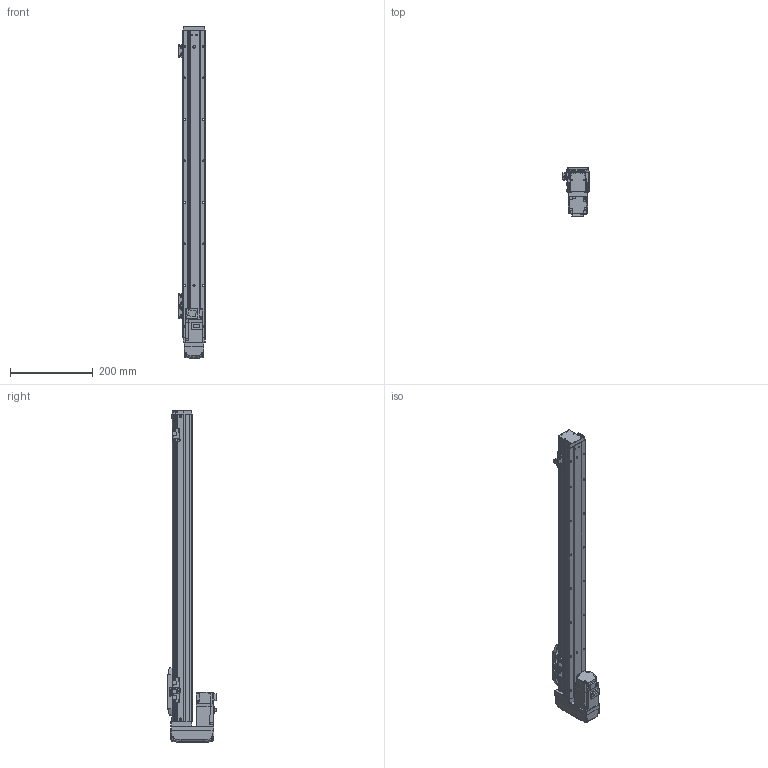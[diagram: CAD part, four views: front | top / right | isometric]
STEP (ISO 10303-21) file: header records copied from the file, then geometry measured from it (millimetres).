
FILE_DESCRIPTION (( 'STEP AP203' ), '1' );
FILE_NAME ('GTH5-600-BM-M10-C4.step', '2022-09-23T00:48:12', ( '微软用户' ), ( '微软中国' ), 'SwSTEP 2.0', 'SolidWorks 2020', '' );
FILE_SCHEMA (( 'CONFIG_CONTROL_DESIGN' ));
Length unit declared in the file: millimetre
Products named in the file (19): GBT96.1-2002 3×0.8; GTH50-026; GTH50-001_600; GTH50-024; GTH5-600-BM-M10-C4; GBT 70.1-M4×16; GBT 70.1-M2.5×6; GTH50-003; GTH50-028; GTH50-006; GTH50-013; GTH50-022-1; GTH50-004; GTH50-023; HG-KR13; GBT 70.3-M3℅6; GBT 70.1-M3℅6; GTH50-027-1_BTHA50-027-2; BTH-M3X5X6
Assembly tree (57 placements, depth 2):
  GTH5-600-BM-M10-C4
    GTH50-006
    GTH50-004
    GBT 70.3-M3℅6  x4
    BTH-M3X5X6  x8
    GTH50-001_600
    GBT 70.1-M4×16  x8
    GTH50-003
    GTH50-013
    GTH50-023  x3
    GBT 70.1-M3℅6  x12
    GBT96.1-2002 3×0.8  x6
    GTH50-024  x3
    GBT 70.1-M2.5×6  x2
    GTH50-028  x2
    GTH50-022-1
    HG-KR13
    GTH50-027-1_BTHA50-027-2
    GTH50-026
Bounding box: 63.8 x 118.9 x 800 mm (x, y, z)
Volume: 1817022.2 mm3; surface area: 304600.4 mm2
Topology: 59 solids, 59 shells, 2160 faces, 5016 edges, 3076 vertices
Faces by surface type: plane 1142, cylinder 589, cone 219, torus 162, bspline 40, sphere 8
Entity records: 40160 total; most frequent: CARTESIAN_POINT 7947, DIRECTION 6185, ORIENTED_EDGE 5946, EDGE_CURVE 2973, AXIS2_PLACEMENT_3D 2152, LINE 1881, VECTOR 1881, VERTEX_POINT 1878
